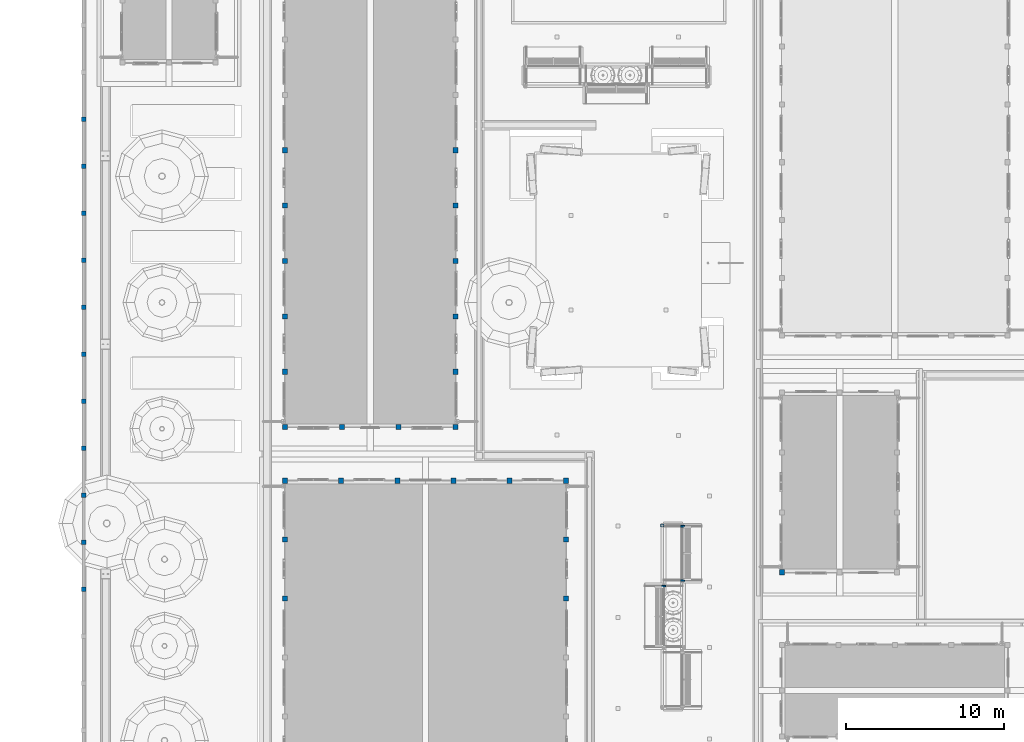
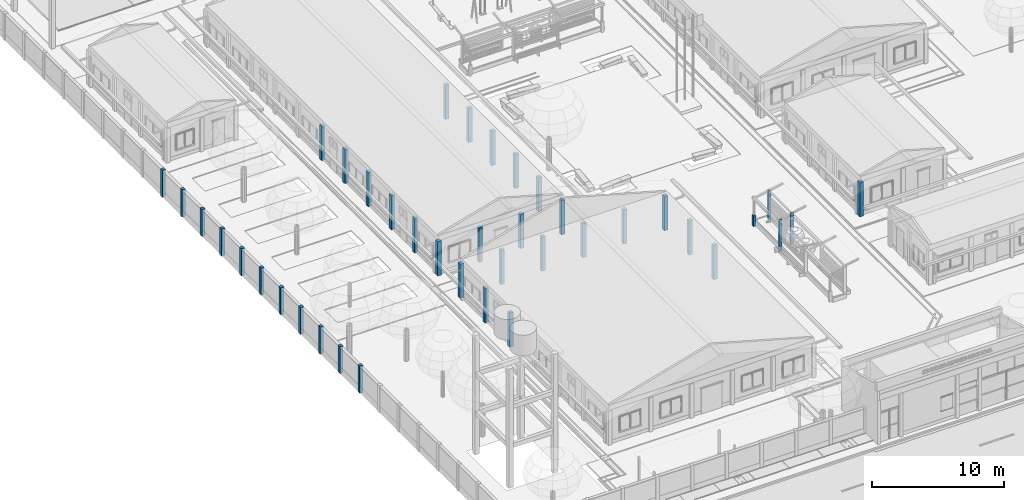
# One storey, part 3 of 177: 45 columns.
"""IFC4 building model written with IfcOpenShell, lengths in metres."""

from ifc_helpers import new_model, si_unit, frame, origin, origin_with_axes, place, context, subcontext, project, spatial, triangles, element, save


model = new_model("IFC4")

# Units and contexts
model_context = context("Model", 3, precision=1e-05, world=origin_with_axes())
body_context = subcontext(model_context, "Body", "Model", "MODEL_VIEW")
ifc_project = project(units=[si_unit("LENGTHUNIT", "METRE"), si_unit("AREAUNIT", "SQUARE_METRE"), si_unit("VOLUMEUNIT", "CUBIC_METRE"), si_unit("PLANEANGLEUNIT", "RADIAN")], contexts=[model_context])

# Site, building, storey
site_placement = place(None, origin_with_axes())
site = spatial("IfcSite", under=ifc_project, at=site_placement, Name="Predio Los Mangos - Morales, San Martín", CompositionType="ELEMENT")
building_placement = place(site_placement, origin())
building = spatial("IfcBuilding", under=site, at=building_placement, Name="Hogar de Refugio Temporal", CompositionType="ELEMENT")
storey_placement = place(building_placement, origin())
storey = spatial("IfcBuildingStorey", under=building, at=storey_placement, Name="NIVEL 1 (NPT +0.00)", CompositionType="ELEMENT", Elevation=0.0)

# Columns
column_1_placement = place(storey_placement, origin())
element("IfcColumn", 1, at=column_1_placement, inside=storey, Name="E-01_col", ObjectType="Columna", PredefinedType="COLUMN", context=body_context, shape_type="Tessellation", body=[
    triangles([(13.64, 48.54, 0.15), (13.96, 48.54, 0.15), (13.96, 48.86, 0.15), (13.64, 48.86, 0.15), (13.64, 48.54, 3.3), (13.96, 48.54, 3.3), (13.96, 48.86, 3.3), (13.64, 48.86, 3.3)], [[1, 4, 3], [1, 3, 2], [5, 6, 7], [5, 7, 8], [1, 2, 6], [1, 6, 5], [2, 3, 7], [2, 7, 6], [3, 4, 8], [3, 8, 7], [4, 1, 5], [4, 5, 8]]),
])
column_2_placement = place(storey_placement, origin())
element("IfcColumn", 2, at=column_2_placement, inside=storey, Name="E-01_col", ObjectType="Columna", PredefinedType="COLUMN", context=body_context, shape_type="Tessellation", body=[
    triangles([(17.2, 48.54, 0.15), (17.52, 48.54, 0.15), (17.52, 48.86, 0.15), (17.2, 48.86, 0.15), (17.2, 48.54, 3.3), (17.52, 48.54, 3.3), (17.52, 48.86, 3.3), (17.2, 48.86, 3.3)], [[1, 4, 3], [1, 3, 2], [5, 6, 7], [5, 7, 8], [1, 2, 6], [1, 6, 5], [2, 3, 7], [2, 7, 6], [3, 4, 8], [3, 8, 7], [4, 1, 5], [4, 5, 8]]),
])
column_3_placement = place(storey_placement, origin())
element("IfcColumn", 3, at=column_3_placement, inside=storey, Name="E-01_col", ObjectType="Columna", PredefinedType="COLUMN", context=body_context, shape_type="Tessellation", body=[
    triangles([(20.76, 48.54, 0.15), (21.08, 48.54, 0.15), (21.08, 48.86, 0.15), (20.76, 48.86, 0.15), (20.76, 48.54, 3.3), (21.08, 48.54, 3.3), (21.08, 48.86, 3.3), (20.76, 48.86, 3.3)], [[1, 4, 3], [1, 3, 2], [5, 6, 7], [5, 7, 8], [1, 2, 6], [1, 6, 5], [2, 3, 7], [2, 7, 6], [3, 4, 8], [3, 8, 7], [4, 1, 5], [4, 5, 8]]),
])
column_4_placement = place(storey_placement, origin())
element("IfcColumn", 4, at=column_4_placement, inside=storey, Name="E-01_col", ObjectType="Columna", PredefinedType="COLUMN", context=body_context, shape_type="Tessellation", body=[
    triangles([(24.32, 48.54, 0.15), (24.64, 48.54, 0.15), (24.64, 48.86, 0.15), (24.32, 48.86, 0.15), (24.32, 48.54, 3.3), (24.64, 48.54, 3.3), (24.64, 48.86, 3.3), (24.32, 48.86, 3.3)], [[1, 4, 3], [1, 3, 2], [5, 6, 7], [5, 7, 8], [1, 2, 6], [1, 6, 5], [2, 3, 7], [2, 7, 6], [3, 4, 8], [3, 8, 7], [4, 1, 5], [4, 5, 8]]),
])
column_5_placement = place(storey_placement, origin())
element("IfcColumn", 5, at=column_5_placement, inside=storey, Name="E-01_col", ObjectType="Columna", PredefinedType="COLUMN", context=body_context, shape_type="Tessellation", body=[
    triangles([(27.88, 48.54, 0.15), (28.2, 48.54, 0.15), (28.2, 48.86, 0.15), (27.88, 48.86, 0.15), (27.88, 48.54, 3.3), (28.2, 48.54, 3.3), (28.2, 48.86, 3.3), (27.88, 48.86, 3.3)], [[1, 4, 3], [1, 3, 2], [5, 6, 7], [5, 7, 8], [1, 2, 6], [1, 6, 5], [2, 3, 7], [2, 7, 6], [3, 4, 8], [3, 8, 7], [4, 1, 5], [4, 5, 8]]),
])
column_6_placement = place(storey_placement, origin())
element("IfcColumn", 6, at=column_6_placement, inside=storey, Name="E-01_col", ObjectType="Columna", PredefinedType="COLUMN", context=body_context, shape_type="Tessellation", body=[
    triangles([(31.44, 48.54, 0.15), (31.76, 48.54, 0.15), (31.76, 48.86, 0.15), (31.44, 48.86, 0.15), (31.44, 48.54, 3.3), (31.76, 48.54, 3.3), (31.76, 48.86, 3.3), (31.44, 48.86, 3.3)], [[1, 4, 3], [1, 3, 2], [5, 6, 7], [5, 7, 8], [1, 2, 6], [1, 6, 5], [2, 3, 7], [2, 7, 6], [3, 4, 8], [3, 8, 7], [4, 1, 5], [4, 5, 8]]),
])
column_7_placement = place(storey_placement, origin())
element("IfcColumn", 7, at=column_7_placement, inside=storey, Name="E-01_col", ObjectType="Columna", PredefinedType="COLUMN", context=body_context, shape_type="Tessellation", body=[
    triangles([(13.64, 41.0733, 0.15), (13.96, 41.0733, 0.15), (13.96, 41.3933, 0.15), (13.64, 41.3933, 0.15), (13.64, 41.0733, 3.3), (13.96, 41.0733, 3.3), (13.96, 41.3933, 3.3), (13.64, 41.3933, 3.3)], [[1, 4, 3], [1, 3, 2], [5, 6, 7], [5, 7, 8], [1, 2, 6], [1, 6, 5], [2, 3, 7], [2, 7, 6], [3, 4, 8], [3, 8, 7], [4, 1, 5], [4, 5, 8]]),
])
column_8_placement = place(storey_placement, origin())
element("IfcColumn", 8, at=column_8_placement, inside=storey, Name="E-01_col", ObjectType="Columna", PredefinedType="COLUMN", context=body_context, shape_type="Tessellation", body=[
    triangles([(13.64, 44.8067, 0.15), (13.96, 44.8067, 0.15), (13.96, 45.1267, 0.15), (13.64, 45.1267, 0.15), (13.64, 44.8067, 3.3), (13.96, 44.8067, 3.3), (13.96, 45.1267, 3.3), (13.64, 45.1267, 3.3)], [[1, 4, 3], [1, 3, 2], [5, 6, 7], [5, 7, 8], [1, 2, 6], [1, 6, 5], [2, 3, 7], [2, 7, 6], [3, 4, 8], [3, 8, 7], [4, 1, 5], [4, 5, 8]]),
])
column_9_placement = place(storey_placement, origin())
element("IfcColumn", 9, at=column_9_placement, inside=storey, Name="E-01_col", ObjectType="Columna", PredefinedType="COLUMN", context=body_context, shape_type="Tessellation", body=[
    triangles([(13.64, 48.54, 0.15), (13.96, 48.54, 0.15), (13.96, 48.86, 0.15), (13.64, 48.86, 0.15), (13.64, 48.54, 3.3), (13.96, 48.54, 3.3), (13.96, 48.86, 3.3), (13.64, 48.86, 3.3)], [[1, 4, 3], [1, 3, 2], [5, 6, 7], [5, 7, 8], [1, 2, 6], [1, 6, 5], [2, 3, 7], [2, 7, 6], [3, 4, 8], [3, 8, 7], [4, 1, 5], [4, 5, 8]]),
])
column_10_placement = place(storey_placement, origin())
element("IfcColumn", 10, at=column_10_placement, inside=storey, Name="E-01_col", ObjectType="Columna", PredefinedType="COLUMN", context=body_context, shape_type="Tessellation", body=[
    triangles([(31.44, 41.0733, 0.15), (31.76, 41.0733, 0.15), (31.76, 41.3933, 0.15), (31.44, 41.3933, 0.15), (31.44, 41.0733, 3.3), (31.76, 41.0733, 3.3), (31.76, 41.3933, 3.3), (31.44, 41.3933, 3.3)], [[1, 4, 3], [1, 3, 2], [5, 6, 7], [5, 7, 8], [1, 2, 6], [1, 6, 5], [2, 3, 7], [2, 7, 6], [3, 4, 8], [3, 8, 7], [4, 1, 5], [4, 5, 8]]),
])
column_11_placement = place(storey_placement, origin())
element("IfcColumn", 11, at=column_11_placement, inside=storey, Name="E-01_col", ObjectType="Columna", PredefinedType="COLUMN", context=body_context, shape_type="Tessellation", body=[
    triangles([(31.44, 44.8067, 0.15), (31.76, 44.8067, 0.15), (31.76, 45.1267, 0.15), (31.44, 45.1267, 0.15), (31.44, 44.8067, 3.3), (31.76, 44.8067, 3.3), (31.76, 45.1267, 3.3), (31.44, 45.1267, 3.3)], [[1, 4, 3], [1, 3, 2], [5, 6, 7], [5, 7, 8], [1, 2, 6], [1, 6, 5], [2, 3, 7], [2, 7, 6], [3, 4, 8], [3, 8, 7], [4, 1, 5], [4, 5, 8]]),
])
column_12_placement = place(storey_placement, origin())
element("IfcColumn", 12, at=column_12_placement, inside=storey, Name="E-01_col", ObjectType="Columna", PredefinedType="COLUMN", context=body_context, shape_type="Tessellation", body=[
    triangles([(31.44, 48.54, 0.15), (31.76, 48.54, 0.15), (31.76, 48.86, 0.15), (31.44, 48.86, 0.15), (31.44, 48.54, 3.3), (31.76, 48.54, 3.3), (31.76, 48.86, 3.3), (31.44, 48.86, 3.3)], [[1, 4, 3], [1, 3, 2], [5, 6, 7], [5, 7, 8], [1, 2, 6], [1, 6, 5], [2, 3, 7], [2, 7, 6], [3, 4, 8], [3, 8, 7], [4, 1, 5], [4, 5, 8]]),
])
for number, where, name in (
    (13, (0.0, 0.0, 0.0), "E-02_col"),
    (14, (0.0, 0.0, 0.0), "E-02_col"),
):
    element("IfcColumn", number, at=place(storey_placement, frame(where)), inside=storey, Name=name, ObjectType="Columna", PredefinedType="COLUMN", context=body_context, shape_type="Tessellation", body=[
        triangles([(45.14, 42.74, 0.15), (45.46, 42.74, 0.15), (45.46, 43.06, 0.15), (45.14, 43.06, 0.15), (45.14, 42.74, 3.3), (45.46, 42.74, 3.3), (45.46, 43.06, 3.3), (45.14, 43.06, 3.3)], [[1, 4, 3], [1, 3, 2], [5, 6, 7], [5, 7, 8], [1, 2, 6], [1, 6, 5], [2, 3, 7], [2, 7, 6], [3, 4, 8], [3, 8, 7], [4, 1, 5], [4, 5, 8]]),
    ])
column_13_placement = place(storey_placement, origin())
element("IfcColumn", 15, at=column_13_placement, inside=storey, Name="E-04_col", ObjectType="Columna", PredefinedType="COLUMN", context=body_context, shape_type="Tessellation", body=[
    triangles([(13.64, 51.94, 0.15), (13.96, 51.94, 0.15), (13.96, 52.26, 0.15), (13.64, 52.26, 0.15), (13.64, 51.94, 3.3), (13.96, 51.94, 3.3), (13.96, 52.26, 3.3), (13.64, 52.26, 3.3)], [[1, 4, 3], [1, 3, 2], [5, 6, 7], [5, 7, 8], [1, 2, 6], [1, 6, 5], [2, 3, 7], [2, 7, 6], [3, 4, 8], [3, 8, 7], [4, 1, 5], [4, 5, 8]]),
])
column_14_placement = place(storey_placement, origin())
element("IfcColumn", 16, at=column_14_placement, inside=storey, Name="E-04_col", ObjectType="Columna", PredefinedType="COLUMN", context=body_context, shape_type="Tessellation", body=[
    triangles([(17.24, 51.94, 0.15), (17.56, 51.94, 0.15), (17.56, 52.26, 0.15), (17.24, 52.26, 0.15), (17.24, 51.94, 3.3), (17.56, 51.94, 3.3), (17.56, 52.26, 3.3), (17.24, 52.26, 3.3)], [[1, 4, 3], [1, 3, 2], [5, 6, 7], [5, 7, 8], [1, 2, 6], [1, 6, 5], [2, 3, 7], [2, 7, 6], [3, 4, 8], [3, 8, 7], [4, 1, 5], [4, 5, 8]]),
])
column_15_placement = place(storey_placement, origin())
element("IfcColumn", 17, at=column_15_placement, inside=storey, Name="E-04_col", ObjectType="Columna", PredefinedType="COLUMN", context=body_context, shape_type="Tessellation", body=[
    triangles([(20.84, 51.94, 0.15), (21.16, 51.94, 0.15), (21.16, 52.26, 0.15), (20.84, 52.26, 0.15), (20.84, 51.94, 3.3), (21.16, 51.94, 3.3), (21.16, 52.26, 3.3), (20.84, 52.26, 3.3)], [[1, 4, 3], [1, 3, 2], [5, 6, 7], [5, 7, 8], [1, 2, 6], [1, 6, 5], [2, 3, 7], [2, 7, 6], [3, 4, 8], [3, 8, 7], [4, 1, 5], [4, 5, 8]]),
])
column_16_placement = place(storey_placement, origin())
element("IfcColumn", 18, at=column_16_placement, inside=storey, Name="E-04_col", ObjectType="Columna", PredefinedType="COLUMN", context=body_context, shape_type="Tessellation", body=[
    triangles([(24.44, 51.94, 0.15), (24.76, 51.94, 0.15), (24.76, 52.26, 0.15), (24.44, 52.26, 0.15), (24.44, 51.94, 3.3), (24.76, 51.94, 3.3), (24.76, 52.26, 3.3), (24.44, 52.26, 3.3)], [[1, 4, 3], [1, 3, 2], [5, 6, 7], [5, 7, 8], [1, 2, 6], [1, 6, 5], [2, 3, 7], [2, 7, 6], [3, 4, 8], [3, 8, 7], [4, 1, 5], [4, 5, 8]]),
])
column_17_placement = place(storey_placement, origin())
element("IfcColumn", 19, at=column_17_placement, inside=storey, Name="E-04_col", ObjectType="Columna", PredefinedType="COLUMN", context=body_context, shape_type="Tessellation", body=[
    triangles([(13.64, 51.94, 0.15), (13.96, 51.94, 0.15), (13.96, 52.26, 0.15), (13.64, 52.26, 0.15), (13.64, 51.94, 3.3), (13.96, 51.94, 3.3), (13.96, 52.26, 3.3), (13.64, 52.26, 3.3)], [[1, 4, 3], [1, 3, 2], [5, 6, 7], [5, 7, 8], [1, 2, 6], [1, 6, 5], [2, 3, 7], [2, 7, 6], [3, 4, 8], [3, 8, 7], [4, 1, 5], [4, 5, 8]]),
])
column_18_placement = place(storey_placement, origin())
element("IfcColumn", 20, at=column_18_placement, inside=storey, Name="E-04_col", ObjectType="Columna", PredefinedType="COLUMN", context=body_context, shape_type="Tessellation", body=[
    triangles([(13.64, 55.45, 0.15), (13.96, 55.45, 0.15), (13.96, 55.77, 0.15), (13.64, 55.77, 0.15), (13.64, 55.45, 3.3), (13.96, 55.45, 3.3), (13.96, 55.77, 3.3), (13.64, 55.77, 3.3)], [[1, 4, 3], [1, 3, 2], [5, 6, 7], [5, 7, 8], [1, 2, 6], [1, 6, 5], [2, 3, 7], [2, 7, 6], [3, 4, 8], [3, 8, 7], [4, 1, 5], [4, 5, 8]]),
])
column_19_placement = place(storey_placement, origin())
element("IfcColumn", 21, at=column_19_placement, inside=storey, Name="E-04_col", ObjectType="Columna", PredefinedType="COLUMN", context=body_context, shape_type="Tessellation", body=[
    triangles([(13.64, 58.96, 0.15), (13.96, 58.96, 0.15), (13.96, 59.28, 0.15), (13.64, 59.28, 0.15), (13.64, 58.96, 3.3), (13.96, 58.96, 3.3), (13.96, 59.28, 3.3), (13.64, 59.28, 3.3)], [[1, 4, 3], [1, 3, 2], [5, 6, 7], [5, 7, 8], [1, 2, 6], [1, 6, 5], [2, 3, 7], [2, 7, 6], [3, 4, 8], [3, 8, 7], [4, 1, 5], [4, 5, 8]]),
])
column_20_placement = place(storey_placement, origin())
element("IfcColumn", 22, at=column_20_placement, inside=storey, Name="E-04_col", ObjectType="Columna", PredefinedType="COLUMN", context=body_context, shape_type="Tessellation", body=[
    triangles([(13.64, 62.47, 0.15), (13.96, 62.47, 0.15), (13.96, 62.79, 0.15), (13.64, 62.79, 0.15), (13.64, 62.47, 3.3), (13.96, 62.47, 3.3), (13.96, 62.79, 3.3), (13.64, 62.79, 3.3)], [[1, 4, 3], [1, 3, 2], [5, 6, 7], [5, 7, 8], [1, 2, 6], [1, 6, 5], [2, 3, 7], [2, 7, 6], [3, 4, 8], [3, 8, 7], [4, 1, 5], [4, 5, 8]]),
])
column_21_placement = place(storey_placement, origin())
element("IfcColumn", 23, at=column_21_placement, inside=storey, Name="E-04_col", ObjectType="Columna", PredefinedType="COLUMN", context=body_context, shape_type="Tessellation", body=[
    triangles([(13.64, 65.98, 0.15), (13.96, 65.98, 0.15), (13.96, 66.3, 0.15), (13.64, 66.3, 0.15), (13.64, 65.98, 3.3), (13.96, 65.98, 3.3), (13.96, 66.3, 3.3), (13.64, 66.3, 3.3)], [[1, 4, 3], [1, 3, 2], [5, 6, 7], [5, 7, 8], [1, 2, 6], [1, 6, 5], [2, 3, 7], [2, 7, 6], [3, 4, 8], [3, 8, 7], [4, 1, 5], [4, 5, 8]]),
])
column_22_placement = place(storey_placement, origin())
element("IfcColumn", 24, at=column_22_placement, inside=storey, Name="E-04_col", ObjectType="Columna", PredefinedType="COLUMN", context=body_context, shape_type="Tessellation", body=[
    triangles([(13.64, 69.49, 0.15), (13.96, 69.49, 0.15), (13.96, 69.81, 0.15), (13.64, 69.81, 0.15), (13.64, 69.49, 3.3), (13.96, 69.49, 3.3), (13.96, 69.81, 3.3), (13.64, 69.81, 3.3)], [[1, 4, 3], [1, 3, 2], [5, 6, 7], [5, 7, 8], [1, 2, 6], [1, 6, 5], [2, 3, 7], [2, 7, 6], [3, 4, 8], [3, 8, 7], [4, 1, 5], [4, 5, 8]]),
])
column_23_placement = place(storey_placement, origin())
element("IfcColumn", 25, at=column_23_placement, inside=storey, Name="E-04_col", ObjectType="Columna", PredefinedType="COLUMN", context=body_context, shape_type="Tessellation", body=[
    triangles([(24.44, 51.94, 0.15), (24.76, 51.94, 0.15), (24.76, 52.26, 0.15), (24.44, 52.26, 0.15), (24.44, 51.94, 3.3), (24.76, 51.94, 3.3), (24.76, 52.26, 3.3), (24.44, 52.26, 3.3)], [[1, 4, 3], [1, 3, 2], [5, 6, 7], [5, 7, 8], [1, 2, 6], [1, 6, 5], [2, 3, 7], [2, 7, 6], [3, 4, 8], [3, 8, 7], [4, 1, 5], [4, 5, 8]]),
])
column_24_placement = place(storey_placement, origin())
element("IfcColumn", 26, at=column_24_placement, inside=storey, Name="E-04_col", ObjectType="Columna", PredefinedType="COLUMN", context=body_context, shape_type="Tessellation", body=[
    triangles([(24.44, 55.45, 0.15), (24.76, 55.45, 0.15), (24.76, 55.77, 0.15), (24.44, 55.77, 0.15), (24.44, 55.45, 3.3), (24.76, 55.45, 3.3), (24.76, 55.77, 3.3), (24.44, 55.77, 3.3)], [[1, 4, 3], [1, 3, 2], [5, 6, 7], [5, 7, 8], [1, 2, 6], [1, 6, 5], [2, 3, 7], [2, 7, 6], [3, 4, 8], [3, 8, 7], [4, 1, 5], [4, 5, 8]]),
])
column_25_placement = place(storey_placement, origin())
element("IfcColumn", 27, at=column_25_placement, inside=storey, Name="E-04_col", ObjectType="Columna", PredefinedType="COLUMN", context=body_context, shape_type="Tessellation", body=[
    triangles([(24.44, 58.96, 0.15), (24.76, 58.96, 0.15), (24.76, 59.28, 0.15), (24.44, 59.28, 0.15), (24.44, 58.96, 3.3), (24.76, 58.96, 3.3), (24.76, 59.28, 3.3), (24.44, 59.28, 3.3)], [[1, 4, 3], [1, 3, 2], [5, 6, 7], [5, 7, 8], [1, 2, 6], [1, 6, 5], [2, 3, 7], [2, 7, 6], [3, 4, 8], [3, 8, 7], [4, 1, 5], [4, 5, 8]]),
])
column_26_placement = place(storey_placement, origin())
element("IfcColumn", 28, at=column_26_placement, inside=storey, Name="E-04_col", ObjectType="Columna", PredefinedType="COLUMN", context=body_context, shape_type="Tessellation", body=[
    triangles([(24.44, 62.47, 0.15), (24.76, 62.47, 0.15), (24.76, 62.79, 0.15), (24.44, 62.79, 0.15), (24.44, 62.47, 3.3), (24.76, 62.47, 3.3), (24.76, 62.79, 3.3), (24.44, 62.79, 3.3)], [[1, 4, 3], [1, 3, 2], [5, 6, 7], [5, 7, 8], [1, 2, 6], [1, 6, 5], [2, 3, 7], [2, 7, 6], [3, 4, 8], [3, 8, 7], [4, 1, 5], [4, 5, 8]]),
])
column_27_placement = place(storey_placement, origin())
element("IfcColumn", 29, at=column_27_placement, inside=storey, Name="E-04_col", ObjectType="Columna", PredefinedType="COLUMN", context=body_context, shape_type="Tessellation", body=[
    triangles([(24.44, 65.98, 0.15), (24.76, 65.98, 0.15), (24.76, 66.3, 0.15), (24.44, 66.3, 0.15), (24.44, 65.98, 3.3), (24.76, 65.98, 3.3), (24.76, 66.3, 3.3), (24.44, 66.3, 3.3)], [[1, 4, 3], [1, 3, 2], [5, 6, 7], [5, 7, 8], [1, 2, 6], [1, 6, 5], [2, 3, 7], [2, 7, 6], [3, 4, 8], [3, 8, 7], [4, 1, 5], [4, 5, 8]]),
])
column_28_placement = place(storey_placement, origin())
element("IfcColumn", 30, at=column_28_placement, inside=storey, Name="E-04_col", ObjectType="Columna", PredefinedType="COLUMN", context=body_context, shape_type="Tessellation", body=[
    triangles([(24.44, 69.49, 0.15), (24.76, 69.49, 0.15), (24.76, 69.81, 0.15), (24.44, 69.81, 0.15), (24.44, 69.49, 3.3), (24.76, 69.49, 3.3), (24.76, 69.81, 3.3), (24.44, 69.81, 3.3)], [[1, 4, 3], [1, 3, 2], [5, 6, 7], [5, 7, 8], [1, 2, 6], [1, 6, 5], [2, 3, 7], [2, 7, 6], [3, 4, 8], [3, 8, 7], [4, 1, 5], [4, 5, 8]]),
])
column_29_placement = place(storey_placement, origin())
element("IfcColumn", 31, at=column_29_placement, inside=storey, Name="columna_cerco", ObjectType="Columna", PredefinedType="COLUMN", context=body_context, shape_type="Tessellation", body=[
    triangles([(0.91, 71.7658, 0.0), (0.91, 71.4858, 0.0), (1.19, 71.4858, 0.0), (1.19, 71.7658, 0.0), (0.91, 71.7658, 2.5), (0.91, 71.4858, 2.5), (1.19, 71.4858, 2.5), (1.19, 71.7658, 2.5)], [[1, 4, 3], [1, 3, 2], [5, 6, 7], [5, 7, 8], [1, 2, 6], [1, 6, 5], [2, 3, 7], [2, 7, 6], [3, 4, 8], [3, 8, 7], [4, 1, 5], [4, 5, 8]]),
])
column_30_placement = place(storey_placement, origin())
element("IfcColumn", 32, at=column_30_placement, inside=storey, Name="columna_cerco", ObjectType="Columna", PredefinedType="COLUMN", context=body_context, shape_type="Tessellation", body=[
    triangles([(0.91, 68.7866, 0.0), (0.91, 68.5066, 0.0), (1.19, 68.5066, 0.0), (1.19, 68.7866, 0.0), (0.91, 68.7866, 2.5), (0.91, 68.5066, 2.5), (1.19, 68.5066, 2.5), (1.19, 68.7866, 2.5)], [[1, 4, 3], [1, 3, 2], [5, 6, 7], [5, 7, 8], [1, 2, 6], [1, 6, 5], [2, 3, 7], [2, 7, 6], [3, 4, 8], [3, 8, 7], [4, 1, 5], [4, 5, 8]]),
])
column_31_placement = place(storey_placement, origin())
element("IfcColumn", 33, at=column_31_placement, inside=storey, Name="columna_cerco", ObjectType="Columna", PredefinedType="COLUMN", context=body_context, shape_type="Tessellation", body=[
    triangles([(0.91, 65.8074, 0.0), (0.91, 65.5274, 0.0), (1.19, 65.5274, 0.0), (1.19, 65.8074, 0.0), (0.91, 65.8074, 2.5), (0.91, 65.5274, 2.5), (1.19, 65.5274, 2.5), (1.19, 65.8074, 2.5)], [[1, 4, 3], [1, 3, 2], [5, 6, 7], [5, 7, 8], [1, 2, 6], [1, 6, 5], [2, 3, 7], [2, 7, 6], [3, 4, 8], [3, 8, 7], [4, 1, 5], [4, 5, 8]]),
])
column_32_placement = place(storey_placement, origin())
element("IfcColumn", 34, at=column_32_placement, inside=storey, Name="columna_cerco", ObjectType="Columna", PredefinedType="COLUMN", context=body_context, shape_type="Tessellation", body=[
    triangles([(0.91, 62.8282, 0.0), (0.91, 62.5482, 0.0), (1.19, 62.5482, 0.0), (1.19, 62.8282, 0.0), (0.91, 62.8282, 2.5), (0.91, 62.5482, 2.5), (1.19, 62.5482, 2.5), (1.19, 62.8282, 2.5)], [[1, 4, 3], [1, 3, 2], [5, 6, 7], [5, 7, 8], [1, 2, 6], [1, 6, 5], [2, 3, 7], [2, 7, 6], [3, 4, 8], [3, 8, 7], [4, 1, 5], [4, 5, 8]]),
])
column_33_placement = place(storey_placement, origin())
element("IfcColumn", 35, at=column_33_placement, inside=storey, Name="columna_cerco", ObjectType="Columna", PredefinedType="COLUMN", context=body_context, shape_type="Tessellation", body=[
    triangles([(0.91, 59.8489, 0.0), (0.91, 59.5689, 0.0), (1.19, 59.5689, 0.0), (1.19, 59.8489, 0.0), (0.91, 59.8489, 2.5), (0.91, 59.5689, 2.5), (1.19, 59.5689, 2.5), (1.19, 59.8489, 2.5)], [[1, 4, 3], [1, 3, 2], [5, 6, 7], [5, 7, 8], [1, 2, 6], [1, 6, 5], [2, 3, 7], [2, 7, 6], [3, 4, 8], [3, 8, 7], [4, 1, 5], [4, 5, 8]]),
])
column_34_placement = place(storey_placement, origin())
element("IfcColumn", 36, at=column_34_placement, inside=storey, Name="columna_cerco", ObjectType="Columna", PredefinedType="COLUMN", context=body_context, shape_type="Tessellation", body=[
    triangles([(0.91, 56.8697, 0.0), (0.91, 56.5897, 0.0), (1.19, 56.5897, 0.0), (1.19, 56.8697, 0.0), (0.91, 56.8697, 2.5), (0.91, 56.5897, 2.5), (1.19, 56.5897, 2.5), (1.19, 56.8697, 2.5)], [[1, 4, 3], [1, 3, 2], [5, 6, 7], [5, 7, 8], [1, 2, 6], [1, 6, 5], [2, 3, 7], [2, 7, 6], [3, 4, 8], [3, 8, 7], [4, 1, 5], [4, 5, 8]]),
])
column_35_placement = place(storey_placement, origin())
element("IfcColumn", 37, at=column_35_placement, inside=storey, Name="columna_cerco", ObjectType="Columna", PredefinedType="COLUMN", context=body_context, shape_type="Tessellation", body=[
    triangles([(0.91, 53.8905, 0.0), (0.91, 53.6105, 0.0), (1.19, 53.6105, 0.0), (1.19, 53.8905, 0.0), (0.91, 53.8905, 2.5), (0.91, 53.6105, 2.5), (1.19, 53.6105, 2.5), (1.19, 53.8905, 2.5)], [[1, 4, 3], [1, 3, 2], [5, 6, 7], [5, 7, 8], [1, 2, 6], [1, 6, 5], [2, 3, 7], [2, 7, 6], [3, 4, 8], [3, 8, 7], [4, 1, 5], [4, 5, 8]]),
])
column_36_placement = place(storey_placement, origin())
element("IfcColumn", 38, at=column_36_placement, inside=storey, Name="columna_cerco", ObjectType="Columna", PredefinedType="COLUMN", context=body_context, shape_type="Tessellation", body=[
    triangles([(0.91, 50.9113, 0.0), (0.91, 50.6313, 0.0), (1.19, 50.6313, 0.0), (1.19, 50.9113, 0.0), (0.91, 50.9113, 2.5), (0.91, 50.6313, 2.5), (1.19, 50.6313, 2.5), (1.19, 50.9113, 2.5)], [[1, 4, 3], [1, 3, 2], [5, 6, 7], [5, 7, 8], [1, 2, 6], [1, 6, 5], [2, 3, 7], [2, 7, 6], [3, 4, 8], [3, 8, 7], [4, 1, 5], [4, 5, 8]]),
])
column_37_placement = place(storey_placement, origin())
element("IfcColumn", 39, at=column_37_placement, inside=storey, Name="columna_cerco", ObjectType="Columna", PredefinedType="COLUMN", context=body_context, shape_type="Tessellation", body=[
    triangles([(0.91, 47.9321, 0.0), (0.91, 47.6521, 0.0), (1.19, 47.6521, 0.0), (1.19, 47.9321, 0.0), (0.91, 47.9321, 2.5), (0.91, 47.6521, 2.5), (1.19, 47.6521, 2.5), (1.19, 47.9321, 2.5)], [[1, 4, 3], [1, 3, 2], [5, 6, 7], [5, 7, 8], [1, 2, 6], [1, 6, 5], [2, 3, 7], [2, 7, 6], [3, 4, 8], [3, 8, 7], [4, 1, 5], [4, 5, 8]]),
])
column_38_placement = place(storey_placement, origin())
element("IfcColumn", 40, at=column_38_placement, inside=storey, Name="columna_cerco", ObjectType="Columna", PredefinedType="COLUMN", context=body_context, shape_type="Tessellation", body=[
    triangles([(0.91, 44.9529, 0.0), (0.91, 44.6729, 0.0), (1.19, 44.6729, 0.0), (1.19, 44.9529, 0.0), (0.91, 44.9529, 2.5), (0.91, 44.6729, 2.5), (1.19, 44.6729, 2.5), (1.19, 44.9529, 2.5)], [[1, 4, 3], [1, 3, 2], [5, 6, 7], [5, 7, 8], [1, 2, 6], [1, 6, 5], [2, 3, 7], [2, 7, 6], [3, 4, 8], [3, 8, 7], [4, 1, 5], [4, 5, 8]]),
])
column_39_placement = place(storey_placement, origin())
element("IfcColumn", 41, at=column_39_placement, inside=storey, Name="columna_cerco", ObjectType="Columna", PredefinedType="COLUMN", context=body_context, shape_type="Tessellation", body=[
    triangles([(0.91, 41.9737, 0.0), (0.91, 41.6937, 0.0), (1.19, 41.6937, 0.0), (1.19, 41.9737, 0.0), (0.91, 41.9737, 2.5), (0.91, 41.6937, 2.5), (1.19, 41.6937, 2.5), (1.19, 41.9737, 2.5)], [[1, 4, 3], [1, 3, 2], [5, 6, 7], [5, 7, 8], [1, 2, 6], [1, 6, 5], [2, 3, 7], [2, 7, 6], [3, 4, 8], [3, 8, 7], [4, 1, 5], [4, 5, 8]]),
])
column_40_placement = place(storey_placement, origin())
element("IfcColumn", 42, at=column_40_placement, inside=storey, Name="oc01_columna", ObjectType="Columna", PredefinedType="COLUMN", context=body_context, shape_type="Tessellation", body=[
    triangles([(37.925, 41.975, 0.0), (37.925, 42.075, 0.0), (37.675, 42.075, 0.0), (37.675, 41.975, 0.0), (37.925, 41.975, 2.93), (37.925, 42.075, 2.93), (37.675, 42.075, 2.93), (37.675, 41.975, 2.93)], [[1, 4, 3], [1, 3, 2], [5, 6, 7], [5, 7, 8], [1, 2, 6], [1, 6, 5], [2, 3, 7], [2, 7, 6], [3, 4, 8], [3, 8, 7], [4, 1, 5], [4, 5, 8]]),
])
column_41_placement = place(storey_placement, origin())
element("IfcColumn", 43, at=column_41_placement, inside=storey, Name="oc01_columna", ObjectType="Columna", PredefinedType="COLUMN", context=body_context, shape_type="Tessellation", body=[
    triangles([(39.125, 42.335, 0.0), (39.125, 42.435, 0.0), (38.875, 42.435, 0.0), (38.875, 42.335, 0.0), (39.125, 42.335, 2.93), (39.125, 42.435, 2.93), (38.875, 42.435, 2.93), (38.875, 42.335, 2.93)], [[1, 4, 3], [1, 3, 2], [5, 6, 7], [5, 7, 8], [1, 2, 6], [1, 6, 5], [2, 3, 7], [2, 7, 6], [3, 4, 8], [3, 8, 7], [4, 1, 5], [4, 5, 8]]),
])
column_42_placement = place(storey_placement, origin())
element("IfcColumn", 44, at=column_42_placement, inside=storey, Name="oc01_columna", ObjectType="Columna", PredefinedType="COLUMN", context=body_context, shape_type="Tessellation", body=[
    triangles([(39.125, 45.765, 0.0), (39.125, 45.865, 0.0), (38.875, 45.865, 0.0), (38.875, 45.765, 0.0), (39.125, 45.765, 2.93), (39.125, 45.865, 2.93), (38.875, 45.865, 2.93), (38.875, 45.765, 2.93)], [[1, 4, 3], [1, 3, 2], [5, 6, 7], [5, 7, 8], [1, 2, 6], [1, 6, 5], [2, 3, 7], [2, 7, 6], [3, 4, 8], [3, 8, 7], [4, 1, 5], [4, 5, 8]]),
])
column_43_placement = place(storey_placement, origin())
element("IfcColumn", 45, at=column_43_placement, inside=storey, Name="oc01_falsa_columna", ObjectType="Falsa columna", PredefinedType="COLUMN", context=body_context, shape_type="Tessellation", body=[
    triangles([(37.81, 45.755, 0.0), (37.81, 45.955, 0.0), (37.61, 45.955, 0.0), (37.61, 45.755, 0.0), (37.81, 45.755, 1.05), (37.81, 45.955, 1.05), (37.61, 45.955, 1.05), (37.61, 45.755, 1.05)], [[1, 4, 3], [1, 3, 2], [5, 6, 7], [5, 7, 8], [1, 2, 6], [1, 6, 5], [2, 3, 7], [2, 7, 6], [3, 4, 8], [3, 8, 7], [4, 1, 5], [4, 5, 8]]),
])

save(model, "model.ifc")
